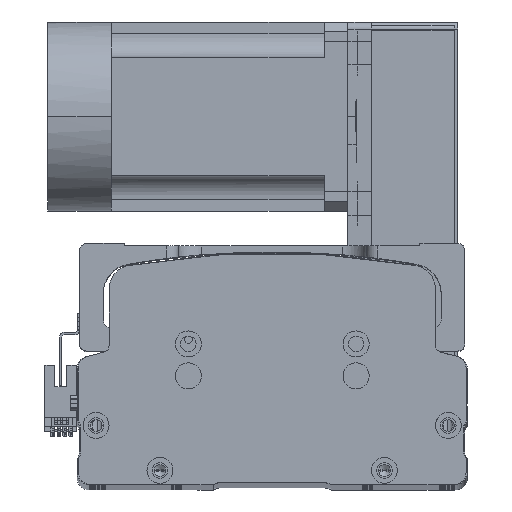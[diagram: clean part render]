
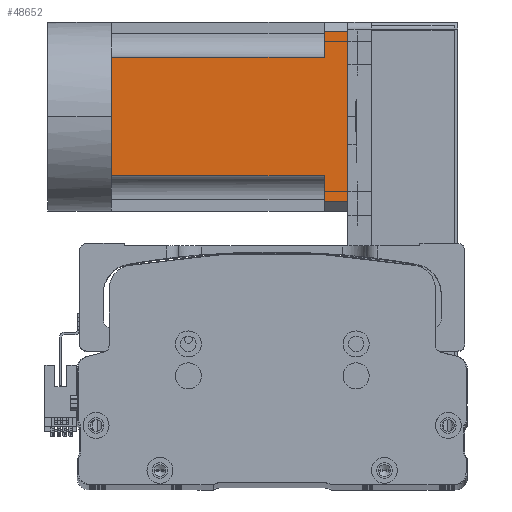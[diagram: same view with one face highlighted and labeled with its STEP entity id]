
A CAD part, top view. The second image highlights one B-rep face of the part: STEP entity #48652.
In plain terms, the highlighted planar face has unit normal (0, 0, 1) as drawn and (0, 0, -1) by its records, which use the part's own axes.
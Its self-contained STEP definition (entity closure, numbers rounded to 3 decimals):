
#494 = LINE ( 'NONE', #8144, #12360 ) ;
#3565 = VERTEX_POINT ( 'NONE', #5308 ) ;
#3815 = EDGE_CURVE ( 'NONE', #50119, #65644, #32344, .T. ) ;
#4668 = LINE ( 'NONE', #58002, #56938 ) ;
#5162 = EDGE_CURVE ( 'NONE', #52050, #23536, #494, .T. ) ;
#5308 = CARTESIAN_POINT ( 'NONE',  ( 36., 100., -40. ) ) ;
#7888 = ORIENTED_EDGE ( 'NONE', *, *, #59377, .T. ) ;
#8134 = VERTEX_POINT ( 'NONE', #38643 ) ;
#8144 = CARTESIAN_POINT ( 'NONE',  ( -40., 0., -40. ) ) ;
#8616 = ORIENTED_EDGE ( 'NONE', *, *, #19306, .F. ) ;
#9619 = EDGE_LOOP ( 'NONE', ( #8616, #34539, #20289, #25872, #48650, #44161, #7888, #25080, #30776 ) ) ;
#11360 = CARTESIAN_POINT ( 'NONE',  ( -36., -27., -40. ) ) ;
#12360 = VECTOR ( 'NONE', #23421, 1000. ) ;
#12829 = DIRECTION ( 'NONE',  ( -1., 0., 0. ) ) ;
#13399 = PLANE ( 'NONE',  #47060 ) ;
#14340 = LINE ( 'NONE', #16292, #53174 ) ;
#16292 = CARTESIAN_POINT ( 'NONE',  ( -25., -27., -40. ) ) ;
#16894 = EDGE_CURVE ( 'NONE', #45459, #26571, #55737, .T. ) ;
#18472 = DIRECTION ( 'NONE',  ( -1., 0., 0. ) ) ;
#19306 = EDGE_CURVE ( 'NONE', #3565, #65644, #4668, .T. ) ;
#19724 = LINE ( 'NONE', #64415, #49846 ) ;
#20289 = ORIENTED_EDGE ( 'NONE', *, *, #16894, .T. ) ;
#21857 = LINE ( 'NONE', #47735, #47178 ) ;
#22509 = DIRECTION ( 'NONE',  ( -1., 0., 0. ) ) ;
#23070 = CARTESIAN_POINT ( 'NONE',  ( 25., 90., -40. ) ) ;
#23421 = DIRECTION ( 'NONE',  ( -1., 0., 0. ) ) ;
#23536 = VERTEX_POINT ( 'NONE', #32877 ) ;
#23700 = LINE ( 'NONE', #63309, #35553 ) ;
#24284 = EDGE_CURVE ( 'NONE', #26571, #52050, #55745, .T. ) ;
#24624 = DIRECTION ( 'NONE',  ( 0., -1., 0. ) ) ;
#25080 = ORIENTED_EDGE ( 'NONE', *, *, #53155, .T. ) ;
#25215 = DIRECTION ( 'NONE',  ( -1., 0., 0. ) ) ;
#25872 = ORIENTED_EDGE ( 'NONE', *, *, #24284, .T. ) ;
#26571 = VERTEX_POINT ( 'NONE', #23070 ) ;
#28795 = VECTOR ( 'NONE', #24624, 1000. ) ;
#30776 = ORIENTED_EDGE ( 'NONE', *, *, #3815, .T. ) ;
#32344 = LINE ( 'NONE', #11360, #44231 ) ;
#32877 = CARTESIAN_POINT ( 'NONE',  ( 0., 0., -40. ) ) ;
#34003 = DIRECTION ( 'NONE',  ( -1., 0., 0. ) ) ;
#34539 = ORIENTED_EDGE ( 'NONE', *, *, #50639, .T. ) ;
#35553 = VECTOR ( 'NONE', #58194, 1000. ) ;
#36670 = DIRECTION ( 'NONE',  ( 0., 1., 0. ) ) ;
#38097 = CARTESIAN_POINT ( 'NONE',  ( -36., 90., -40. ) ) ;
#38642 = CARTESIAN_POINT ( 'NONE',  ( -40., -27., -40. ) ) ;
#38643 = CARTESIAN_POINT ( 'NONE',  ( -25., 90., -40. ) ) ;
#40391 = CARTESIAN_POINT ( 'NONE',  ( 36., 90., -40. ) ) ;
#42219 = FACE_OUTER_BOUND ( 'NONE', #9619, .T. ) ;
#42225 = VECTOR ( 'NONE', #25215, 1000. ) ;
#44161 = ORIENTED_EDGE ( 'NONE', *, *, #65620, .T. ) ;
#44231 = VECTOR ( 'NONE', #46733, 1000. ) ;
#45095 = CARTESIAN_POINT ( 'NONE',  ( 25., 0., -40. ) ) ;
#45299 = CARTESIAN_POINT ( 'NONE',  ( -40., 90., -40. ) ) ;
#45459 = VERTEX_POINT ( 'NONE', #40391 ) ;
#46733 = DIRECTION ( 'NONE',  ( 0., 1., 0. ) ) ;
#47060 = AXIS2_PLACEMENT_3D ( 'NONE', #38642, #48799, #18472 ) ;
#47178 = VECTOR ( 'NONE', #22509, 1000. ) ;
#47735 = CARTESIAN_POINT ( 'NONE',  ( -40., 90., -40. ) ) ;
#48089 = VERTEX_POINT ( 'NONE', #63788 ) ;
#48650 = ORIENTED_EDGE ( 'NONE', *, *, #5162, .T. ) ;
#48652 = ADVANCED_FACE ( 'NONE', ( #42219 ), #13399, .T. ) ;
#48799 = DIRECTION ( 'NONE',  ( 0., 0., -1. ) ) ;
#49846 = VECTOR ( 'NONE', #34003, 1000. ) ;
#50119 = VERTEX_POINT ( 'NONE', #38097 ) ;
#50639 = EDGE_CURVE ( 'NONE', #3565, #45459, #23700, .T. ) ;
#52050 = VERTEX_POINT ( 'NONE', #45095 ) ;
#53155 = EDGE_CURVE ( 'NONE', #8134, #50119, #21857, .T. ) ;
#53174 = VECTOR ( 'NONE', #36670, 1000. ) ;
#54415 = CARTESIAN_POINT ( 'NONE',  ( -36., 100., -40. ) ) ;
#55737 = LINE ( 'NONE', #45299, #42225 ) ;
#55745 = LINE ( 'NONE', #60100, #28795 ) ;
#56938 = VECTOR ( 'NONE', #12829, 1000. ) ;
#58002 = CARTESIAN_POINT ( 'NONE',  ( -40., 100., -40. ) ) ;
#58194 = DIRECTION ( 'NONE',  ( 0., -1., 0. ) ) ;
#59377 = EDGE_CURVE ( 'NONE', #48089, #8134, #14340, .T. ) ;
#60100 = CARTESIAN_POINT ( 'NONE',  ( 25., -27., -40. ) ) ;
#63309 = CARTESIAN_POINT ( 'NONE',  ( 36., -27., -40. ) ) ;
#63788 = CARTESIAN_POINT ( 'NONE',  ( -25., 0., -40. ) ) ;
#64415 = CARTESIAN_POINT ( 'NONE',  ( -40., 0., -40. ) ) ;
#65620 = EDGE_CURVE ( 'NONE', #23536, #48089, #19724, .T. ) ;
#65644 = VERTEX_POINT ( 'NONE', #54415 ) ;
